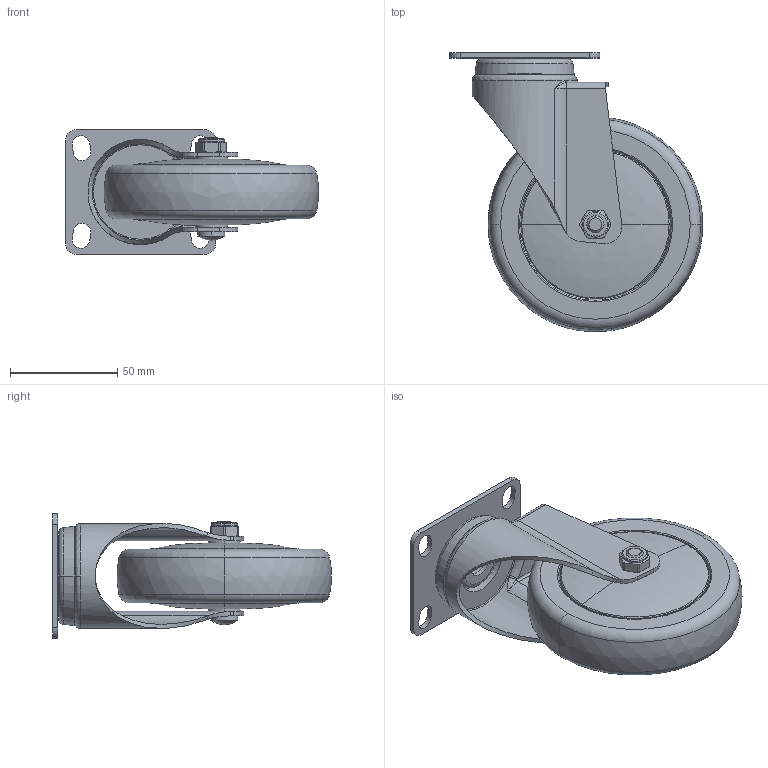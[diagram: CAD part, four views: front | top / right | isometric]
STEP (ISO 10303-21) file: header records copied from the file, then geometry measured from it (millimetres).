
FILE_DESCRIPTION((''),'2;1');
FILE_NAME('37114_ASM','2026-07-08T',('Lenovo'),(''),'PRO/ENGINEER BY PARAMETRIC TECHNOLOGY CORPORATION, 2010280','PRO/ENGINEER BY PARAMETRIC TECHNOLOGY CORPORATION, 2010280','');
FILE_SCHEMA(('CONFIG_CONTROL_DESIGN'));
Length unit declared in the file: millimetre
Products named in the file (8): 3714-311; 360-01; 360-03; 374-907; 374-69A; 350-33A; 300-34; 37114_ASM
Assembly tree (8 placements, depth 2):
  37114_ASM
    3714-311
    360-01
    360-03
    374-907
    374-69A  x2
    350-33A
    300-34
Bounding box: 117.88 x 129.9 x 58 mm (x, y, z)
Volume: 172410.4 mm3; surface area: 82937.8 mm2
Topology: 8 solids, 8 shells, 340 faces, 802 edges, 497 vertices
Faces by surface type: cylinder 95, plane 94, torus 82, cone 44, bspline 23, sphere 2
Entity records: 10469 total; most frequent: CARTESIAN_POINT 3086, DIRECTION 1612, ORIENTED_EDGE 1468, EDGE_CURVE 734, AXIS2_PLACEMENT_3D 700, VERTEX_POINT 459, CIRCLE 396, EDGE_LOOP 349
